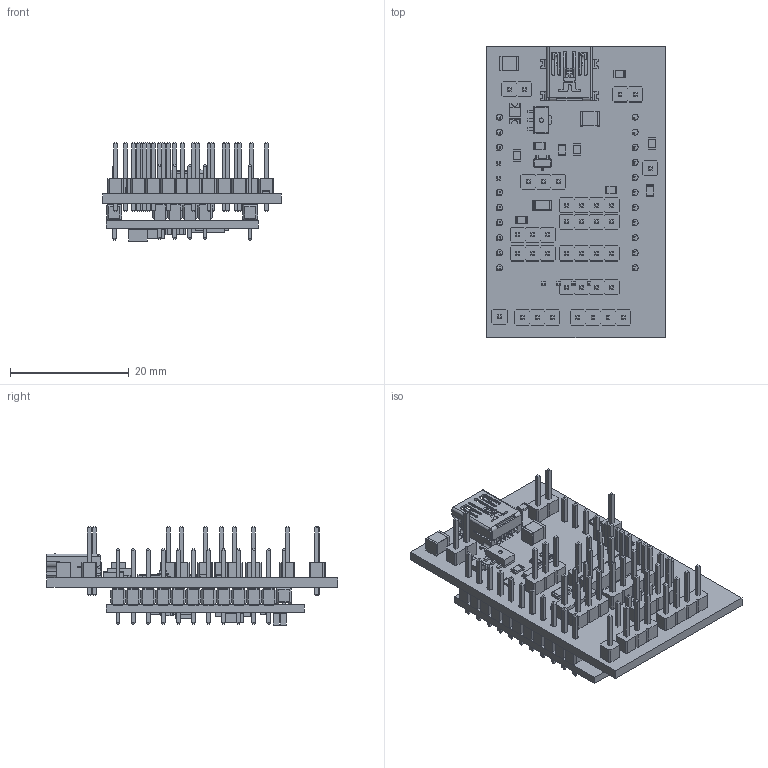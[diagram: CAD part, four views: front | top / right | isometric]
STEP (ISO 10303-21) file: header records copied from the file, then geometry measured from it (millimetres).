
FILE_DESCRIPTION(('KiCad electronic assembly'),'2;1');
FILE_NAME('weather.step','2020-02-12T23:13:05',('An Author'),( 'A Company'),'Open CASCADE STEP processor 6.9', 'KiCad to STEP converter','Unknown');
FILE_SCHEMA(('AUTOMOTIVE_DESIGN { 1 0 10303 214 1 1 1 1 }'));
Length unit declared in the file: millimetre
Products named in the file (26): Open CASCADE STEP translator 6.9 1; D_1206_3216Metric; SOLID; PinHeader_1x02_P2.54mm_Vertical; R_1206_3216Metric; PinHeader_1x01_P2.54mm_Vertical; ESP201_PCB_SILM; COMPOUND; C_1210_3225Metric; USB_Mini-B_Lumberg_2486_01_Horizontal; SOT-89-3; R_0805_2012Metric; SOT-23; PinHeader_1x03_P2.54mm_Vertical; PinHeader_1x04_P2.54mm_Vertical
Assembly tree (43 placements, depth 3):
  Open CASCADE STEP translator 6.9 1
    D_1206_3216Metric
      SOLID
    PinHeader_1x02_P2.54mm_Vertical  x2
      SOLID
    R_1206_3216Metric
      SOLID
    PinHeader_1x01_P2.54mm_Vertical  x2
      SOLID
    ESP201_PCB_SILM
      COMPOUND
    C_1210_3225Metric  x2
      SOLID
    USB_Mini-B_Lumberg_2486_01_Horizontal
      SOLID
    SOT-89-3
      SOLID
    R_0805_2012Metric  x9
      SOLID
    SOT-23
      SOLID
    PinHeader_1x03_P2.54mm_Vertical  x4
      SOLID
    PinHeader_1x04_P2.54mm_Vertical  x5
      SOLID
    COMPOUND
Bounding box: 30.1 x 49.17 x 16.52 mm (x, y, z)
Volume: 4530.3 mm3; surface area: 10347.4 mm2
Topology: 135 solids, 161 shells, 3648 faces, 9306 edges, 6000 vertices
Faces by surface type: plane 2976, cylinder 527, bspline 131, sphere 12, torus 2
Full cylindrical faces by diameter (mm): 0.7 x1, 0.8 x2, 1 x40, 1.016 x20
Entity records: 183955 total; most frequent: CARTESIAN_POINT 48974, DIRECTION 19237, ORIENTED_EDGE 13798, PCURVE 13798, DEFINITIONAL_REPRESENTATION 13798, LINE 11852, VECTOR 11852, B_SPLINE_CURVE_WITH_KNOTS 7108
